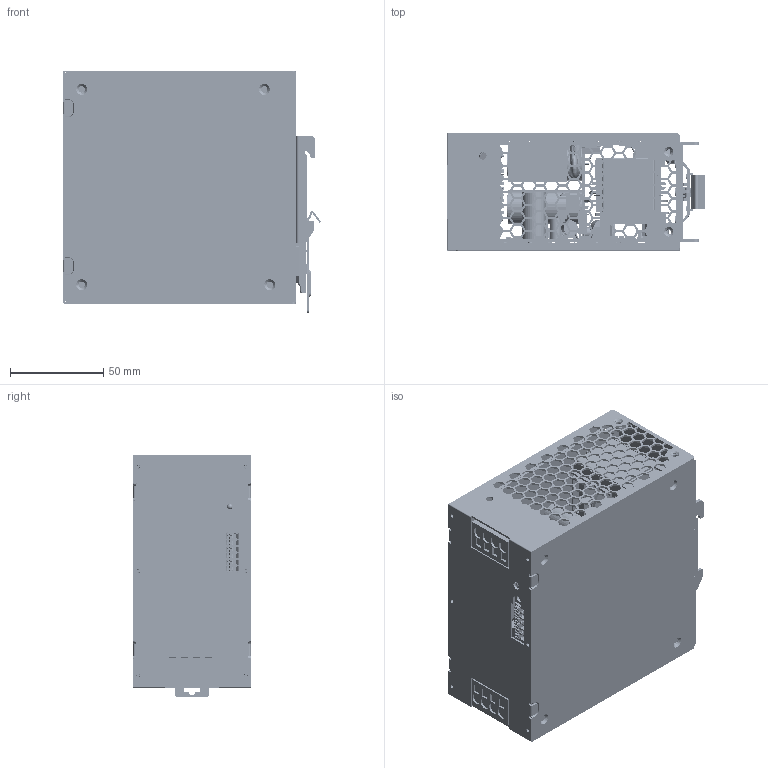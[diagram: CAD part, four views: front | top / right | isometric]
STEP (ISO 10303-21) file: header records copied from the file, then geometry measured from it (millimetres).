
FILE_DESCRIPTION(('Creo Elements/Direct Modeling STEP Export'),'2;1');
FILE_NAME('XTR-480PI.stp','2025-03-31T13:28:25',(''),(''),'Creo Elements/Direct Modeling STEP processor for AP214 (Solid Model)','Creo Elements/Direct Modeling 19.0G 27-Nov-2017 (C) Parametric Technology GmbH','');
FILE_SCHEMA(('AUTOMOTIVE_DESIGN { 1 0 10303 214 1 1 1 1 }'));
Length unit declared in the file: millimetre
Products named in the file (1166): BOARD.PRT; MPX410H-6358043701_20241017.PRT; TB1.ASM; PIN-P7_5_RGB12632256.PRT; CYLINDER-20769.PRT; 551280608.ASM; CYLINDER-20961.PRT; 551280760.ASM; CYLINDER-21153.PRT; 551280912.ASM; CYLINDER-21345.PRT; 551281064.ASM; CYLINDER-21537.PRT; 551281216.ASM; CYLINDER-21729.PRT; 551281368.ASM; CYLINDER-21921.PRT; 551281520.ASM; FS2.ASM; CYLINDER-22169.PRT; 551279544.ASM; CYLINDER-22361.PRT; 551279696.ASM; CYLINDER-22553.PRT; 551279848.ASM; CYLINDER-22745.PRT; 551280000.ASM; CYLINDER-22937.PRT; 551280152.ASM; CYLINDER-23129.PRT; 551280304.ASM; CYLINDER-23321.PRT; 551280456.ASM; FS3.ASM; 2BCX-1812.PRT; D3.ASM; D2.ASM; D1.ASM; 760900544_1.PRT; 760900544_2.PRT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
Assembly tree (1834 placements, depth 9):
  PI.ASM
    _X2_88C5914D_X0_1-5425310.ASM.1
      DG212R-THR-3_5-05P-1Y-1-5114690.PRT
      DG212R-THR-3_5-05P-1Y-1-5317370.PRT
      1FF2.PRT
      1GG2DRP14-R4_STP.ASM
        DRP14-R4_ASM.ASM
          P1_1_PRT.PRT
          15_1_PRT.PRT
          P3_2_1_PRT.PRT
    PCBNEW.1
      XTR-480E-R0.step
        PCB.ASM
          D36.ASM
            2CDX-SMC.PRT
          D33.ASM
            2CDX-SMC.PRT
          C50.ASM
            760907080.PRT
          C47.ASM
            760907080.PRT
          C39.ASM
            760907080.PRT
          C37.ASM
            760907080.PRT
          C5.ASM
            760911792.ASM  x4
              CYLINDER-6648.PRT
            760914832.ASM
              CYLINDER-7037.PRT
            760914984.ASM
              CYLINDER-6845.PRT
            550406192.ASM
              EXTRUDED-3390.PRT
          C6.ASM
            550406352.ASM
              EXTRUDED-7877.PRT
            760915136.ASM  x4
              CYLINDER-7286.PRT
            760915288.ASM
              CYLINDER-7675.PRT
            760915440.ASM
              CYLINDER-7483.PRT
          C7.ASM
            760911792.ASM  x4
              CYLINDER-6648.PRT
            760914832.ASM
              CYLINDER-7037.PRT
            760914984.ASM
              CYLINDER-6845.PRT
            550406192.ASM
              EXTRUDED-3390.PRT
          BOARD.PRT
      XTR-480D-R0.step
        PCB.ASM
          FREE-MODELS.ASM
            864784704.ASM
              EXTRUDED-420222.PRT
          R217.ASM
            760890664.ASM
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Bounding box: 138.51 x 63 x 130.49 mm (x, y, z)
Volume: 334229.8 mm3; surface area: 335738.4 mm2
Topology: 1627 solids, 1630 shells, 42154 faces, 108105 edges, 70028 vertices
Faces by surface type: plane 24694, extrusion 9716, cylinder 5723, sphere 1319, torus 368, cone 166, bspline 146, revolution 22
Entity records: 484375 total; most frequent: CARTESIAN_POINT 130221, ORIENTED_EDGE 62706, DIRECTION 58079, EDGE_CURVE 31425, VECTOR 24372, LINE 23192, VERTEX_POINT 20677, AXIS2_PLACEMENT_3D 16849
